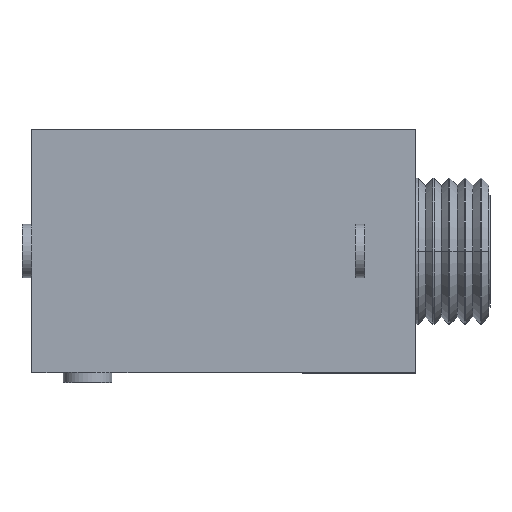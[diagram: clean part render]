
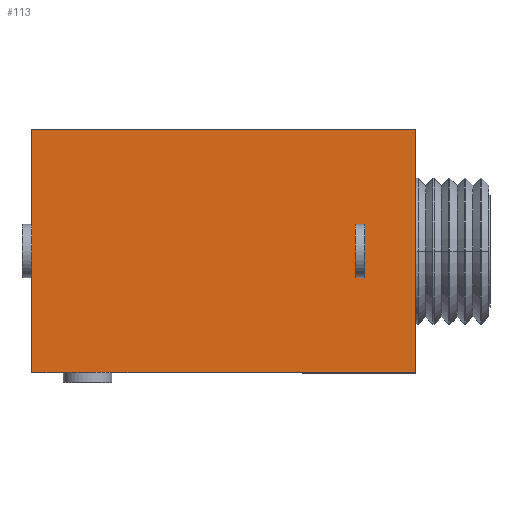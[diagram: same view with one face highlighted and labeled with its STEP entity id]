
A CAD part, top view. The second image highlights one B-rep face of the part: STEP entity #113.
In plain terms, the highlighted planar face has unit normal (0, 0, 1).
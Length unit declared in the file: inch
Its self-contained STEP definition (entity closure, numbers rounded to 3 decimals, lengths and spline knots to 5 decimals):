
#40 = CARTESIAN_POINT ( 'NONE',  ( -0.11811, 0.19685, 0.20866 ) ) ;
#68 = ORIENTED_EDGE ( 'NONE', *, *, #2054, .F. ) ;
#89 = DIRECTION ( 'NONE',  ( -1., 0., 0. ) ) ;
#104 = VECTOR ( 'NONE', #742, 39.37008 ) ;
#113 = ADVANCED_FACE ( 'NONE', ( #583, #1547 ), #2688, .F. ) ;
#127 = CARTESIAN_POINT ( 'NONE',  ( -0.20079, -0.04331, 0.20866 ) ) ;
#140 = VERTEX_POINT ( 'NONE', #2743 ) ;
#143 = CARTESIAN_POINT ( 'NONE',  ( -0.74016, -0.19685, 0.20866 ) ) ;
#146 = ORIENTED_EDGE ( 'NONE', *, *, #1169, .T. ) ;
#220 = ORIENTED_EDGE ( 'NONE', *, *, #2953, .T. ) ;
#319 = CARTESIAN_POINT ( 'NONE',  ( -0.74016, 0.19685, 0.20866 ) ) ;
#346 = VERTEX_POINT ( 'NONE', #2831 ) ;
#443 = AXIS2_PLACEMENT_3D ( 'NONE', #2017, #1788, #89 ) ;
#460 = LINE ( 'NONE', #474, #3056 ) ;
#469 = VERTEX_POINT ( 'NONE', #688 ) ;
#470 = LINE ( 'NONE', #2848, #1743 ) ;
#474 = CARTESIAN_POINT ( 'NONE',  ( -0.11811, -0.19685, 0.20866 ) ) ;
#526 = VERTEX_POINT ( 'NONE', #2398 ) ;
#549 = VECTOR ( 'NONE', #2189, 39.37008 ) ;
#552 = VERTEX_POINT ( 'NONE', #1212 ) ;
#583 = FACE_BOUND ( 'NONE', #3009, .T. ) ;
#593 = ORIENTED_EDGE ( 'NONE', *, *, #2197, .F. ) ;
#688 = CARTESIAN_POINT ( 'NONE',  ( -0.74016, 0.19685, 0.20866 ) ) ;
#726 = CARTESIAN_POINT ( 'NONE',  ( -0.74016, 0.19685, 0.20866 ) ) ;
#742 = DIRECTION ( 'NONE',  ( 0., -1., 0. ) ) ;
#850 = EDGE_CURVE ( 'NONE', #2746, #140, #2296, .T. ) ;
#934 = EDGE_CURVE ( 'NONE', #469, #1945, #2103, .T. ) ;
#954 = EDGE_CURVE ( 'NONE', #2746, #1013, #460, .T. ) ;
#959 = EDGE_LOOP ( 'NONE', ( #1331, #2056, #593, #2522, #2951, #220, #146, #1481 ) ) ;
#962 = VECTOR ( 'NONE', #1043, 39.37008 ) ;
#1003 = VECTOR ( 'NONE', #1138, 39.37008 ) ;
#1013 = VERTEX_POINT ( 'NONE', #1457 ) ;
#1043 = DIRECTION ( 'NONE',  ( -1., 0., 0. ) ) ;
#1104 = ORIENTED_EDGE ( 'NONE', *, *, #1954, .F. ) ;
#1138 = DIRECTION ( 'NONE',  ( 1., 0., 0. ) ) ;
#1139 = CARTESIAN_POINT ( 'NONE',  ( -0.61024, -0.19685, 0.20866 ) ) ;
#1169 = EDGE_CURVE ( 'NONE', #1660, #1645, #2203, .T. ) ;
#1198 = VERTEX_POINT ( 'NONE', #1222 ) ;
#1212 = CARTESIAN_POINT ( 'NONE',  ( -0.20079, 0.04331, 0.20866 ) ) ;
#1222 = CARTESIAN_POINT ( 'NONE',  ( -0.11811, 0.19685, 0.20866 ) ) ;
#1230 = DIRECTION ( 'NONE',  ( 1., 0., 0. ) ) ;
#1331 = ORIENTED_EDGE ( 'NONE', *, *, #850, .F. ) ;
#1338 = CARTESIAN_POINT ( 'NONE',  ( -0.21654, -0.04331, 0.20866 ) ) ;
#1344 = ORIENTED_EDGE ( 'NONE', *, *, #2143, .F. ) ;
#1401 = VECTOR ( 'NONE', #2949, 39.37008 ) ;
#1444 = VERTEX_POINT ( 'NONE', #2075 ) ;
#1457 = CARTESIAN_POINT ( 'NONE',  ( -0.11811, -0.19685, 0.20866 ) ) ;
#1481 = ORIENTED_EDGE ( 'NONE', *, *, #1669, .T. ) ;
#1507 = LINE ( 'NONE', #40, #2497 ) ;
#1547 = FACE_OUTER_BOUND ( 'NONE', #959, .T. ) ;
#1581 = EDGE_CURVE ( 'NONE', #1444, #552, #2045, .T. ) ;
#1632 = VECTOR ( 'NONE', #2612, 39.37008 ) ;
#1645 = VERTEX_POINT ( 'NONE', #143 ) ;
#1660 = VERTEX_POINT ( 'NONE', #2295 ) ;
#1669 = EDGE_CURVE ( 'NONE', #1645, #140, #1815, .T. ) ;
#1743 = VECTOR ( 'NONE', #1902, 39.37008 ) ;
#1788 = DIRECTION ( 'NONE',  ( 0., 0., -1. ) ) ;
#1815 = LINE ( 'NONE', #2767, #1003 ) ;
#1902 = DIRECTION ( 'NONE',  ( 1., 0., 0. ) ) ;
#1945 = VERTEX_POINT ( 'NONE', #2129 ) ;
#1954 = EDGE_CURVE ( 'NONE', #346, #1444, #470, .T. ) ;
#2017 = CARTESIAN_POINT ( 'NONE',  ( -0.11811, 0.19685, 0.20866 ) ) ;
#2038 = CARTESIAN_POINT ( 'NONE',  ( -0.61024, -0.19685, 0.20866 ) ) ;
#2039 = ORIENTED_EDGE ( 'NONE', *, *, #1581, .F. ) ;
#2045 = LINE ( 'NONE', #127, #1401 ) ;
#2054 = EDGE_CURVE ( 'NONE', #526, #346, #2776, .T. ) ;
#2056 = ORIENTED_EDGE ( 'NONE', *, *, #954, .T. ) ;
#2075 = CARTESIAN_POINT ( 'NONE',  ( -0.20079, -0.04331, 0.20866 ) ) ;
#2103 = LINE ( 'NONE', #2133, #1632 ) ;
#2129 = CARTESIAN_POINT ( 'NONE',  ( -0.74016, 0.04331, 0.20866 ) ) ;
#2133 = CARTESIAN_POINT ( 'NONE',  ( -0.74016, 0.19685, 0.20866 ) ) ;
#2143 = EDGE_CURVE ( 'NONE', #552, #526, #3031, .T. ) ;
#2189 = DIRECTION ( 'NONE',  ( 0., -1., 0. ) ) ;
#2197 = EDGE_CURVE ( 'NONE', #1198, #1013, #1507, .T. ) ;
#2203 = LINE ( 'NONE', #319, #549 ) ;
#2217 = LINE ( 'NONE', #2267, #2992 ) ;
#2267 = CARTESIAN_POINT ( 'NONE',  ( -0.11811, 0.19685, 0.20866 ) ) ;
#2295 = CARTESIAN_POINT ( 'NONE',  ( -0.74016, -0.04331, 0.20866 ) ) ;
#2296 = LINE ( 'NONE', #1139, #2810 ) ;
#2398 = CARTESIAN_POINT ( 'NONE',  ( -0.21654, 0.04331, 0.20866 ) ) ;
#2497 = VECTOR ( 'NONE', #2617, 39.37008 ) ;
#2522 = ORIENTED_EDGE ( 'NONE', *, *, #2800, .F. ) ;
#2575 = CARTESIAN_POINT ( 'NONE',  ( -0.21654, 0.04331, 0.20866 ) ) ;
#2612 = DIRECTION ( 'NONE',  ( 0., -1., 0. ) ) ;
#2617 = DIRECTION ( 'NONE',  ( 0., -1., 0. ) ) ;
#2633 = VECTOR ( 'NONE', #2973, 39.37008 ) ;
#2670 = DIRECTION ( 'NONE',  ( 1., 0., 0. ) ) ;
#2688 = PLANE ( 'NONE',  #443 ) ;
#2743 = CARTESIAN_POINT ( 'NONE',  ( -0.68898, -0.19685, 0.20866 ) ) ;
#2746 = VERTEX_POINT ( 'NONE', #2038 ) ;
#2767 = CARTESIAN_POINT ( 'NONE',  ( -0.11811, -0.19685, 0.20866 ) ) ;
#2776 = LINE ( 'NONE', #1338, #2633 ) ;
#2800 = EDGE_CURVE ( 'NONE', #469, #1198, #2217, .T. ) ;
#2810 = VECTOR ( 'NONE', #3000, 39.37008 ) ;
#2831 = CARTESIAN_POINT ( 'NONE',  ( -0.21654, -0.04331, 0.20866 ) ) ;
#2848 = CARTESIAN_POINT ( 'NONE',  ( -0.21654, -0.04331, 0.20866 ) ) ;
#2860 = LINE ( 'NONE', #726, #104 ) ;
#2949 = DIRECTION ( 'NONE',  ( 0., 1., 0. ) ) ;
#2951 = ORIENTED_EDGE ( 'NONE', *, *, #934, .T. ) ;
#2953 = EDGE_CURVE ( 'NONE', #1945, #1660, #2860, .T. ) ;
#2973 = DIRECTION ( 'NONE',  ( 0., -1., 0. ) ) ;
#2992 = VECTOR ( 'NONE', #2670, 39.37008 ) ;
#3000 = DIRECTION ( 'NONE',  ( -1., 0., 0. ) ) ;
#3009 = EDGE_LOOP ( 'NONE', ( #68, #1344, #2039, #1104 ) ) ;
#3031 = LINE ( 'NONE', #2575, #962 ) ;
#3056 = VECTOR ( 'NONE', #1230, 39.37008 ) ;
